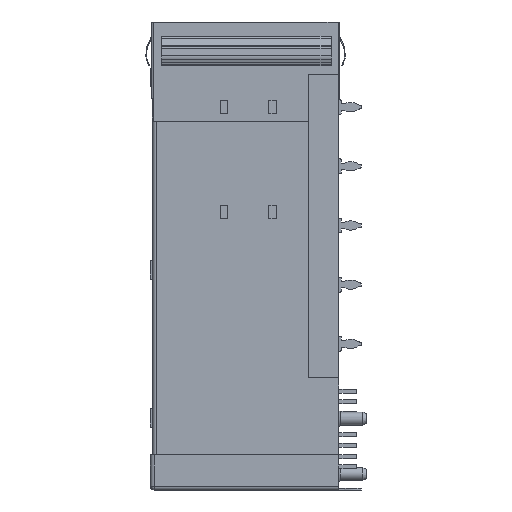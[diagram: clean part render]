
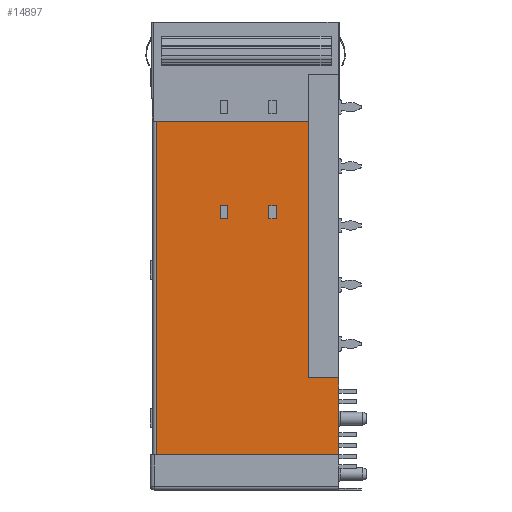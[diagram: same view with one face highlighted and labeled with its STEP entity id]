
A CAD part, left-side view. The second image highlights one B-rep face of the part: STEP entity #14897.
In plain terms, the highlighted planar face has unit normal (-1, 0, 0).
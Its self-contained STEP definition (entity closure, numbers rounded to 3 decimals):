
#241 = ORIENTED_EDGE ( 'NONE', *, *, #44484, .T. ) ;
#910 = CARTESIAN_POINT ( 'NONE',  ( -21.5, 24.7, -58.5 ) ) ;
#1677 = ORIENTED_EDGE ( 'NONE', *, *, #27845, .T. ) ;
#3560 = CARTESIAN_POINT ( 'NONE',  ( -21.5, 25.2, -58.5 ) ) ;
#3990 = EDGE_CURVE ( 'NONE', #24927, #41905, #44869, .T. ) ;
#4019 = CARTESIAN_POINT ( 'NONE',  ( -21.5, 0., -48.1 ) ) ;
#4068 = DIRECTION ( 'NONE',  ( 0., 0., 1. ) ) ;
#4284 = VERTEX_POINT ( 'NONE', #27824 ) ;
#4417 = CARTESIAN_POINT ( 'NONE',  ( -21.5, 9.45, -24.8 ) ) ;
#4439 = LINE ( 'NONE', #4019, #46312 ) ;
#4608 = VERTEX_POINT ( 'NONE', #52641 ) ;
#5098 = VERTEX_POINT ( 'NONE', #19574 ) ;
#5221 = EDGE_CURVE ( 'NONE', #4608, #51126, #49814, .T. ) ;
#5947 = LINE ( 'NONE', #4417, #28167 ) ;
#6143 = VECTOR ( 'NONE', #35002, 1000. ) ;
#6208 = EDGE_CURVE ( 'NONE', #38585, #5098, #44920, .T. ) ;
#6251 = LINE ( 'NONE', #28492, #33568 ) ;
#6348 = ORIENTED_EDGE ( 'NONE', *, *, #27085, .T. ) ;
#7391 = CARTESIAN_POINT ( 'NONE',  ( -21.5, 4.1, -48.1 ) ) ;
#7428 = VERTEX_POINT ( 'NONE', #24144 ) ;
#7484 = ORIENTED_EDGE ( 'NONE', *, *, #6208, .T. ) ;
#7981 = CARTESIAN_POINT ( 'NONE',  ( -21.5, 9.45, -26.6 ) ) ;
#8449 = DIRECTION ( 'NONE',  ( 0., 0., 1. ) ) ;
#8672 = VECTOR ( 'NONE', #17578, 1000. ) ;
#9316 = VERTEX_POINT ( 'NONE', #910 ) ;
#10083 = LINE ( 'NONE', #34964, #25348 ) ;
#10407 = ORIENTED_EDGE ( 'NONE', *, *, #5221, .F. ) ;
#10791 = LINE ( 'NONE', #14349, #38047 ) ;
#10819 = VECTOR ( 'NONE', #51048, 1000. ) ;
#11035 = DIRECTION ( 'NONE',  ( 0., -1., 0. ) ) ;
#11165 = EDGE_CURVE ( 'NONE', #7428, #30752, #21611, .T. ) ;
#11395 = DIRECTION ( 'NONE',  ( 0., -1., 0. ) ) ;
#11535 = CARTESIAN_POINT ( 'NONE',  ( -21.5, 15., -26.6 ) ) ;
#11548 = ORIENTED_EDGE ( 'NONE', *, *, #14227, .T. ) ;
#12034 = DIRECTION ( 'NONE',  ( 0., 1., 0. ) ) ;
#12318 = ORIENTED_EDGE ( 'NONE', *, *, #43404, .T. ) ;
#12494 = CARTESIAN_POINT ( 'NONE',  ( -21.5, 0., -63.25 ) ) ;
#12856 = DIRECTION ( 'NONE',  ( 0., 0., -1. ) ) ;
#13183 = EDGE_CURVE ( 'NONE', #4608, #9316, #30476, .T. ) ;
#13476 = CARTESIAN_POINT ( 'NONE',  ( -21.5, 4.1, -13.4 ) ) ;
#14047 = EDGE_CURVE ( 'NONE', #31921, #15266, #10791, .T. ) ;
#14227 = EDGE_CURVE ( 'NONE', #5098, #41934, #4439, .T. ) ;
#14349 = CARTESIAN_POINT ( 'NONE',  ( -21.5, 9.45, -26.6 ) ) ;
#14897 = ADVANCED_FACE ( 'NONE', ( #42404, #50653, #39868 ), #20631, .T. ) ;
#15266 = VERTEX_POINT ( 'NONE', #7981 ) ;
#16394 = CARTESIAN_POINT ( 'NONE',  ( -21.5, 25.2, -13.4 ) ) ;
#17578 = DIRECTION ( 'NONE',  ( 0., 1., 0. ) ) ;
#19574 = CARTESIAN_POINT ( 'NONE',  ( -21.5, 0., -48.1 ) ) ;
#20151 = LINE ( 'NONE', #3560, #52530 ) ;
#20495 = EDGE_CURVE ( 'NONE', #41905, #4284, #6251, .T. ) ;
#20631 = PLANE ( 'NONE',  #44864 ) ;
#21611 = LINE ( 'NONE', #26899, #10819 ) ;
#23343 = EDGE_LOOP ( 'NONE', ( #24989, #29146, #39353, #42695 ) ) ;
#24144 = CARTESIAN_POINT ( 'NONE',  ( -21.5, 9.45, -24.8 ) ) ;
#24927 = VERTEX_POINT ( 'NONE', #11535 ) ;
#24989 = ORIENTED_EDGE ( 'NONE', *, *, #11165, .T. ) ;
#25348 = VECTOR ( 'NONE', #11035, 1000. ) ;
#25757 = CARTESIAN_POINT ( 'NONE',  ( -21.5, 15., -24.8 ) ) ;
#25900 = EDGE_CURVE ( 'NONE', #30752, #31921, #28707, .T. ) ;
#26899 = CARTESIAN_POINT ( 'NONE',  ( -21.5, 9.45, -24.8 ) ) ;
#27085 = EDGE_CURVE ( 'NONE', #41934, #51126, #50852, .T. ) ;
#27223 = ORIENTED_EDGE ( 'NONE', *, *, #20495, .T. ) ;
#27631 = CARTESIAN_POINT ( 'NONE',  ( -21.5, 16., -26.6 ) ) ;
#27824 = CARTESIAN_POINT ( 'NONE',  ( -21.5, 16., -24.8 ) ) ;
#27845 = EDGE_CURVE ( 'NONE', #4284, #34177, #10083, .T. ) ;
#28167 = VECTOR ( 'NONE', #4068, 1000. ) ;
#28492 = CARTESIAN_POINT ( 'NONE',  ( -21.5, 16., -24.8 ) ) ;
#28707 = LINE ( 'NONE', #34468, #51643 ) ;
#29146 = ORIENTED_EDGE ( 'NONE', *, *, #25900, .T. ) ;
#30476 = LINE ( 'NONE', #33049, #32451 ) ;
#30752 = VERTEX_POINT ( 'NONE', #44701 ) ;
#31646 = CARTESIAN_POINT ( 'NONE',  ( -21.5, 8.45, -26.6 ) ) ;
#31921 = VERTEX_POINT ( 'NONE', #31646 ) ;
#32293 = ORIENTED_EDGE ( 'NONE', *, *, #3990, .T. ) ;
#32451 = VECTOR ( 'NONE', #12856, 1000. ) ;
#33049 = CARTESIAN_POINT ( 'NONE',  ( -21.5, 24.7, -63.25 ) ) ;
#33568 = VECTOR ( 'NONE', #41096, 1000. ) ;
#34177 = VERTEX_POINT ( 'NONE', #25757 ) ;
#34468 = CARTESIAN_POINT ( 'NONE',  ( -21.5, 8.45, -24.8 ) ) ;
#34491 = VECTOR ( 'NONE', #52085, 1000. ) ;
#34648 = CARTESIAN_POINT ( 'NONE',  ( -21.5, 0., -63.25 ) ) ;
#34964 = CARTESIAN_POINT ( 'NONE',  ( -21.5, 16., -24.8 ) ) ;
#35002 = DIRECTION ( 'NONE',  ( 0., 0., 1. ) ) ;
#36302 = CARTESIAN_POINT ( 'NONE',  ( -21.5, 4.1, -7.1 ) ) ;
#37032 = LINE ( 'NONE', #51551, #34491 ) ;
#38047 = VECTOR ( 'NONE', #47291, 1000. ) ;
#38585 = VERTEX_POINT ( 'NONE', #40186 ) ;
#38994 = VECTOR ( 'NONE', #41029, 1000. ) ;
#39353 = ORIENTED_EDGE ( 'NONE', *, *, #14047, .T. ) ;
#39868 = FACE_OUTER_BOUND ( 'NONE', #43179, .T. ) ;
#40186 = CARTESIAN_POINT ( 'NONE',  ( -21.5, 0., -58.5 ) ) ;
#40509 = DIRECTION ( 'NONE',  ( -1., 0., 0. ) ) ;
#41029 = DIRECTION ( 'NONE',  ( 0., -1., 0. ) ) ;
#41096 = DIRECTION ( 'NONE',  ( 0., 0., 1. ) ) ;
#41905 = VERTEX_POINT ( 'NONE', #27631 ) ;
#41934 = VERTEX_POINT ( 'NONE', #7391 ) ;
#42105 = DIRECTION ( 'NONE',  ( 0., 0., -1. ) ) ;
#42404 = FACE_BOUND ( 'NONE', #23343, .T. ) ;
#42695 = ORIENTED_EDGE ( 'NONE', *, *, #50925, .T. ) ;
#43179 = EDGE_LOOP ( 'NONE', ( #10407, #49529, #12318, #7484, #11548, #6348 ) ) ;
#43404 = EDGE_CURVE ( 'NONE', #9316, #38585, #20151, .T. ) ;
#44418 = EDGE_LOOP ( 'NONE', ( #1677, #241, #32293, #27223 ) ) ;
#44484 = EDGE_CURVE ( 'NONE', #34177, #24927, #37032, .T. ) ;
#44701 = CARTESIAN_POINT ( 'NONE',  ( -21.5, 8.45, -24.8 ) ) ;
#44864 = AXIS2_PLACEMENT_3D ( 'NONE', #12494, #40509, #45098 ) ;
#44869 = LINE ( 'NONE', #45952, #8672 ) ;
#44920 = LINE ( 'NONE', #34648, #6143 ) ;
#45098 = DIRECTION ( 'NONE',  ( 0., 0., 1. ) ) ;
#45952 = CARTESIAN_POINT ( 'NONE',  ( -21.5, 16., -26.6 ) ) ;
#46312 = VECTOR ( 'NONE', #12034, 1000. ) ;
#47291 = DIRECTION ( 'NONE',  ( 0., 1., 0. ) ) ;
#49529 = ORIENTED_EDGE ( 'NONE', *, *, #13183, .T. ) ;
#49814 = LINE ( 'NONE', #16394, #38994 ) ;
#50653 = FACE_BOUND ( 'NONE', #44418, .T. ) ;
#50852 = LINE ( 'NONE', #36302, #51479 ) ;
#50925 = EDGE_CURVE ( 'NONE', #15266, #7428, #5947, .T. ) ;
#51048 = DIRECTION ( 'NONE',  ( 0., -1., 0. ) ) ;
#51126 = VERTEX_POINT ( 'NONE', #13476 ) ;
#51479 = VECTOR ( 'NONE', #8449, 1000. ) ;
#51551 = CARTESIAN_POINT ( 'NONE',  ( -21.5, 15., -24.8 ) ) ;
#51643 = VECTOR ( 'NONE', #42105, 1000. ) ;
#52085 = DIRECTION ( 'NONE',  ( 0., 0., -1. ) ) ;
#52530 = VECTOR ( 'NONE', #11395, 1000. ) ;
#52641 = CARTESIAN_POINT ( 'NONE',  ( -21.5, 24.7, -13.4 ) ) ;
